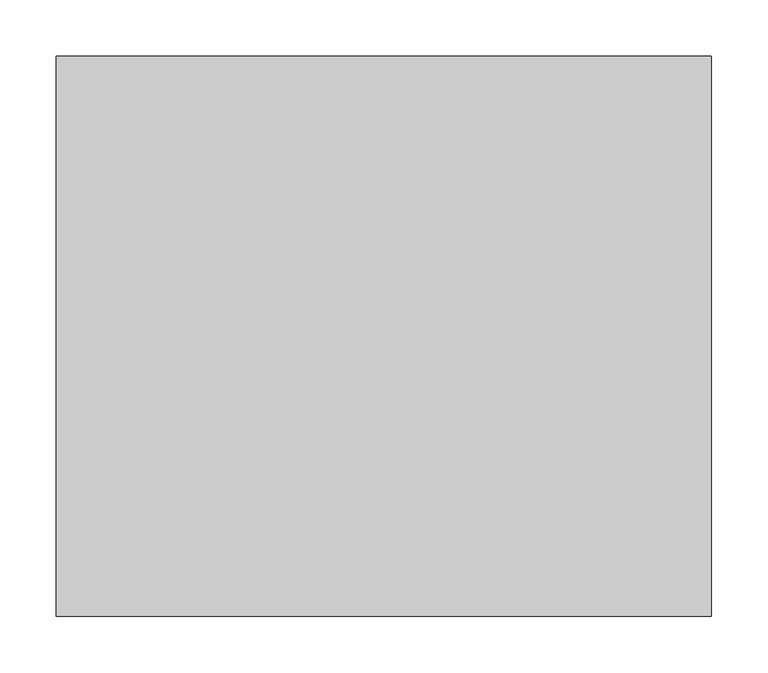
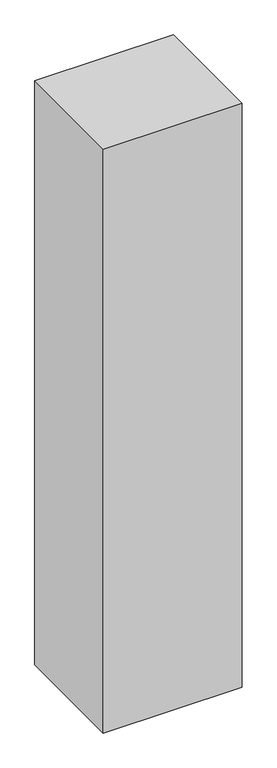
"""IFC4 building model written with IfcOpenShell, lengths in millimetres: furniture geometry, Fu_шкаф 1-с : Шкаф 1-створчатый."""

from ifc_helpers import new_model, si_unit, origin, origin_with_axes, place, context, project, spatial, polyline, outline, extrude, source, transform, mapped, element, save


def furniture_1d6a48cf(model_context):
    return source(origin(), model_context, "Body", "SweptSolid", [
        extrude(outline(polyline([(585.0, 0.0), (585.0, -500.0), (0.0, -500.0), (0.0, 0.0), (585.0, 0.0)])), origin_with_axes(), (0.0, 0.0, 1.0), 2600.0),
    ])


if __name__ == "__main__":
    model = new_model("IFC4")
    model_context = context("Model", 3, world=origin())
    ifc_project = project(units=[si_unit("LENGTHUNIT", "METRE", prefix="MILLI")], contexts=[model_context])
    site = spatial("IfcSite", under=ifc_project)
    building = spatial("IfcBuilding", under=site)
    placement = place(None, origin())
    furniture_shape = furniture_1d6a48cf(model_context)
    element("IfcFurniture", 1, ObjectType="Fu_шкаф 1-с : Шкаф 1-створчатый", at=placement, inside=building, context=model_context, shape_type="MappedRepresentation", body=[
        mapped(furniture_shape, transform((0.0, 0.0, 0.0), x_axis=(1.0, 0.0, 0.0), y_axis=(0.0, 1.0, 0.0), z_axis=(0.0, 0.0, 1.0))),
    ])
    save(model, "model.ifc")
